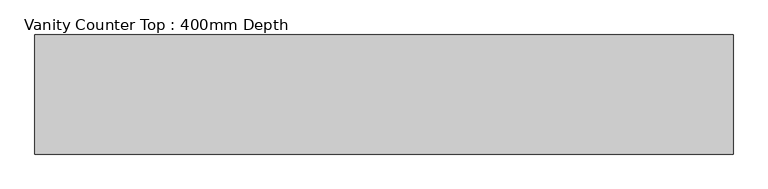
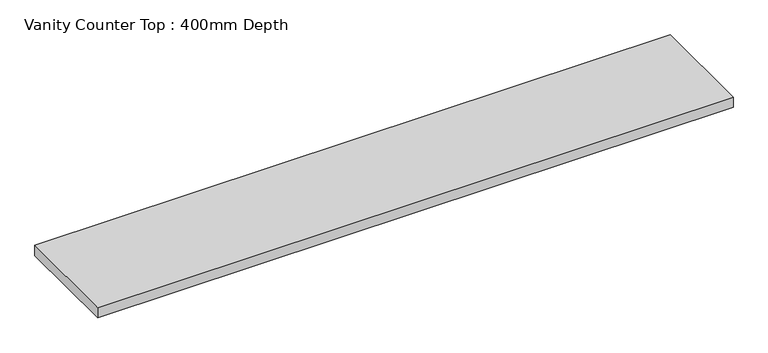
"""IFC4 building model written with IfcOpenShell, lengths in millimetres: furniture geometry, Vanity Counter Top : 400mm Depth."""

import ifcopenshell
import ifcopenshell.guid

model = None  # the IFC model being written
_history = None  # IfcOwnerHistory: only IFC2X3 demands one
_inside = {}  # id of a spatial element -> (the spatial element, [elements in it])
_under = {}  # id of a project, library or spatial element -> (it, [spatial elements below it])
_declared = {}  # id of a project -> (the project, [libraries it declares])
_typed = {}  # id of a type object -> (the type object, [elements of that type])
_made_of = {}  # id of a material, layer set ... -> (it, [elements and type objects made of it])


def new_model(schema):
    """Start an empty IFC model of exactly this schema.

    Asked for "IFC4X3", IfcOpenShell would pick the latest addendum, in which some entities
    have other attributes; the version numbers below select the first issue.
    IFC2X3 requires an IfcOwnerHistory on every rooted entity: one is made here for all.
    """
    global model, _history
    if schema == "IFC4X3":
        model = ifcopenshell.file(schema_version=(4, 3, 0, 0))
    else:
        model = ifcopenshell.file(schema=schema)
    _inside.clear()
    _under.clear()
    _declared.clear()
    _typed.clear()
    _made_of.clear()
    _history = None
    if model.schema == "IFC2X3":
        org = make("IfcOrganization", Name="unknown")
        user = make(
            "IfcPersonAndOrganization",
            ThePerson=make("IfcPerson", FamilyName="unknown"),
            TheOrganization=org,
        )
        app = make(
            "IfcApplication",
            ApplicationDeveloper=org,
            Version="unknown",
            ApplicationFullName="unknown",
            ApplicationIdentifier="unknown",
        )
        _history = make(
            "IfcOwnerHistory",
            OwningUser=user,
            OwningApplication=app,
            ChangeAction="ADDED",
            CreationDate=0,
        )
    return model


def make(cls, **values):
    """One entity of the class cls with the attributes given. An attribute that is None is left unset."""
    return model.create_entity(
        cls, **{name: value for name, value in values.items() if value is not None}
    )


def rooted(cls, **values):
    """An entity with a GlobalId (a new one), such as an element, a storey or a relation."""
    return make(cls, GlobalId=ifcopenshell.guid.new(), OwnerHistory=_history, **values)


def si_unit(unit_type, name, prefix=None):
    """IfcSIUnit, for example si_unit("LENGTHUNIT", "METRE", prefix="MILLI")."""
    return make("IfcSIUnit", UnitType=unit_type, Prefix=prefix, Name=name)


def assignment(units):
    """IfcUnitAssignment: the units of a project."""
    return None if units is None else make("IfcUnitAssignment", Units=units)


def point(xyz):
    """IfcCartesianPoint."""
    return None if xyz is None else make("IfcCartesianPoint", Coordinates=xyz)


def direction(xyz):
    """IfcDirection."""
    return None if xyz is None else make("IfcDirection", DirectionRatios=xyz)


def frame(location, z_axis=None, x_axis=None):
    """IfcAxis2Placement3D, a coordinate frame: its origin and axes. An axis left out is left unset."""
    return make(
        "IfcAxis2Placement3D",
        Location=point(location),
        Axis=direction(z_axis),
        RefDirection=direction(x_axis),
    )


def origin():
    """The frame at (0, 0, 0) with its axes left unset."""
    return frame((0.0, 0.0, 0.0))


def place(relative_to, where):
    """IfcLocalPlacement: puts the frame where relative to a parent placement (None: the world)."""
    return make(
        "IfcLocalPlacement", PlacementRelTo=relative_to, RelativePlacement=where
    )


def context(
    kind, dimensions, precision=None, world=None, true_north=None, identifier=None
):
    """IfcGeometricRepresentationContext, for example the 3D "Model" context."""
    return make(
        "IfcGeometricRepresentationContext",
        ContextIdentifier=identifier,
        ContextType=kind,
        CoordinateSpaceDimension=dimensions,
        Precision=precision,
        WorldCoordinateSystem=world,
        TrueNorth=true_north,
    )


def project(units=None, contexts=None):
    """IfcProject with its units and contexts."""
    return rooted(
        "IfcProject",
        Name="project",
        RepresentationContexts=contexts,
        UnitsInContext=assignment(units),
    )


def spatial(cls, under=None, at=None, **own):
    """A site, building, storey or space (cls), placed at a placement, below another one or the project."""
    s = rooted(cls, ObjectPlacement=at, **own)
    if under is not None:
        _under.setdefault(under.id(), (under, []))[1].append(s)
    return s


def polyline(points):
    """IfcPolyline through the points."""
    return make("IfcPolyline", Points=[point(p) for p in points])


def outline(outer, holes=None, kind="AREA"):
    """IfcArbitraryClosedProfileDef: a profile drawn as a closed curve; with holes, ...WithVoids."""
    if holes is None:
        return make("IfcArbitraryClosedProfileDef", ProfileType=kind, OuterCurve=outer)
    return make(
        "IfcArbitraryProfileDefWithVoids",
        ProfileType=kind,
        OuterCurve=outer,
        InnerCurves=holes,
    )


def extrude(swept, where, along, depth):
    """IfcExtrudedAreaSolid: the profile swept, set in the frame where, extruded along a direction by depth."""
    return make(
        "IfcExtrudedAreaSolid",
        SweptArea=swept,
        Position=where,
        ExtrudedDirection=direction(along),
        Depth=depth,
    )


def shape(context_of_items, identifier, shape_type, items):
    """IfcShapeRepresentation: the items that make up one representation, for example the "Body"."""
    return make(
        "IfcShapeRepresentation",
        ContextOfItems=context_of_items,
        RepresentationIdentifier=identifier,
        RepresentationType=shape_type,
        Items=items,
    )


def source(mapping_origin, context_of_items, identifier, shape_type, items):
    """IfcRepresentationMap: a shape defined once, which mapped items show again and again."""
    return make(
        "IfcRepresentationMap",
        MappingOrigin=mapping_origin,
        MappedRepresentation=shape(context_of_items, identifier, shape_type, items),
    )


def transform(
    local_origin,
    x_axis=None,
    y_axis=None,
    z_axis=None,
    scale=None,
    scale2=None,
    scale3=None,
    uniform=True,
):
    """IfcCartesianTransformationOperator3D, or its non-uniform kind. x_axis, y_axis, z_axis: its Axis1, 2, 3."""
    if uniform:
        return make(
            "IfcCartesianTransformationOperator3D",
            Axis1=direction(x_axis),
            Axis2=direction(y_axis),
            LocalOrigin=point(local_origin),
            Scale=scale,
            Axis3=direction(z_axis),
        )
    return make(
        "IfcCartesianTransformationOperator3DnonUniform",
        Axis1=direction(x_axis),
        Axis2=direction(y_axis),
        LocalOrigin=point(local_origin),
        Scale=scale,
        Axis3=direction(z_axis),
        Scale2=scale2,
        Scale3=scale3,
    )


def mapped(mapping_source, mapping_target):
    """IfcMappedItem: shows the shape of a source again, moved by a transform."""
    return make(
        "IfcMappedItem", MappingSource=mapping_source, MappingTarget=mapping_target
    )


def made_of(thing, what):
    """Note that an element or type object is made of a material, layer set ...; save() writes the relation."""
    if what is not None:
        _made_of.setdefault(what.id(), (what, []))[1].append(thing)
    return thing


def element(
    cls,
    number,
    at=None,
    inside=None,
    cuts=None,
    type_object=None,
    material=None,
    context=None,
    identifier="Body",
    shape_type=None,
    held_by="IfcProductDefinitionShape",
    body=None,
    shapes=None,
    **own,
):
    """One element of the class cls, such as IfcWall. Its Tag is "e" and its number.

    at: its placement. inside: the storey or other place that contains it. cuts: it is an
    opening in that element (IfcRelVoidsElement). A single representation is given by context,
    identifier, shape_type and body (its items); several are given by shapes. held_by: the class
    of the entity that holds the representations. save() writes the other relations.
    """
    e = rooted(cls, Tag="e%d" % number, ObjectPlacement=at, **own)
    if body is not None:
        shapes = [shape(context, identifier, shape_type, body)]
    if shapes is not None:
        e.Representation = make(held_by, Representations=shapes)
    if inside is not None:
        _inside.setdefault(inside.id(), (inside, []))[1].append(e)
    if cuts is not None:
        rooted(
            "IfcRelVoidsElement", RelatingBuildingElement=cuts, RelatedOpeningElement=e
        )
    if type_object is not None:
        _typed.setdefault(type_object.id(), (type_object, []))[1].append(e)
    return made_of(e, material)


def aggregate(whole, parts):
    """IfcRelAggregates: a whole, such as a stair, and the parts it consists of."""
    return rooted("IfcRelAggregates", RelatingObject=whole, RelatedObjects=parts)


def save(model, path):
    """Write the relations noted so far, then the file.

    IfcRelAggregates (storeys below a building ...), IfcRelContainedInSpatialStructure (elements
    in a storey), IfcRelDefinesByType, IfcRelAssociatesMaterial and IfcRelDeclares: one each for
    every whole, place, type object, material and project.
    """
    for whole, parts in _under.values():
        aggregate(whole, parts)
    for where, things in _inside.values():
        rooted(
            "IfcRelContainedInSpatialStructure",
            RelatedElements=things,
            RelatingStructure=where,
        )
    for kind, things in _typed.values():
        rooted("IfcRelDefinesByType", RelatedObjects=things, RelatingType=kind)
    for what, things in _made_of.values():
        rooted("IfcRelAssociatesMaterial", RelatedObjects=things, RelatingMaterial=what)
    for by, libraries in _declared.values():
        rooted("IfcRelDeclares", RelatingContext=by, RelatedDefinitions=libraries)
    model.write(path)


def vanity_counter_top_400mm_depth_ec3fbc7b(model_context):
    return source(origin(), model_context, "Body", "SweptSolid", [
        extrude(outline(polyline([(1144.1559741, 0.0), (1144.1559741, -400.0), (-1200.4622951, -400.0), (-1200.4622951, 0.0), (1144.1559741, 0.0)])), frame((0.0, 0.0, 860.0), z_axis=(0.0, 0.0, 1.0), x_axis=(1.0, 0.0, 0.0)), (0.0, 0.0, 1.0), 40.0),
    ])


if __name__ == "__main__":
    model = new_model("IFC4")
    model_context = context("Model", 3, world=origin())
    ifc_project = project(units=[si_unit("LENGTHUNIT", "METRE", prefix="MILLI")], contexts=[model_context])
    site = spatial("IfcSite", under=ifc_project)
    building = spatial("IfcBuilding", under=site)
    placement = place(None, origin())
    vanity_counter_top_400mm_depth_shape = vanity_counter_top_400mm_depth_ec3fbc7b(model_context)
    element("IfcFurniture", 1, ObjectType="Vanity Counter Top : 400mm Depth", at=placement, inside=building, context=model_context, shape_type="MappedRepresentation", body=[
        mapped(vanity_counter_top_400mm_depth_shape, transform((0.0, 0.0, 0.0), x_axis=(1.0, 0.0, 0.0), y_axis=(0.0, 1.0, 0.0), z_axis=(0.0, 0.0, 1.0))),
    ])
    save(model, "model.ifc")
